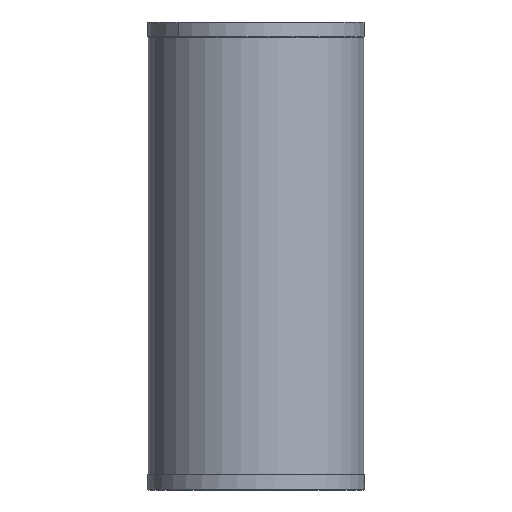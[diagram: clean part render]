
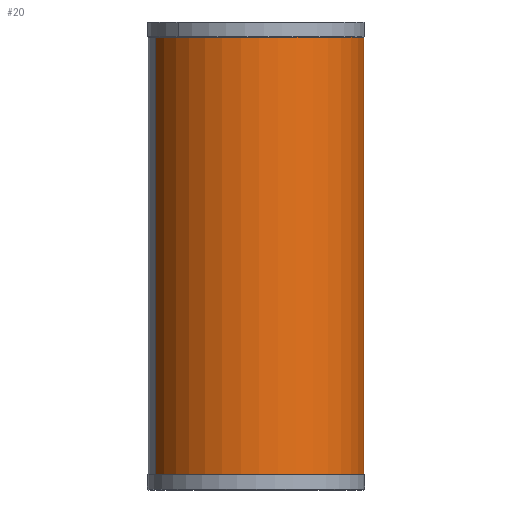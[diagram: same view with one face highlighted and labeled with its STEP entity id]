
A CAD part, front view. The second image highlights one B-rep face of the part: STEP entity #20.
In plain terms, the highlighted cylindrical face has radius 35 mm (diameter 70 mm), a partial arc.
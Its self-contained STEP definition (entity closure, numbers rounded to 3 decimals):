
#8 = LINE ( 'NONE', #1730, #25 ) ;
#20 = ADVANCED_FACE ( 'NONE', ( #1196 ), #784, .T. ) ;
#25 = VECTOR ( 'NONE', #308, 1000. ) ;
#81 = CARTESIAN_POINT ( 'NONE',  ( 0., 0., 142. ) ) ;
#108 = CARTESIAN_POINT ( 'NONE',  ( 0., 0., 142. ) ) ;
#168 = CARTESIAN_POINT ( 'NONE',  ( -35., 0., 142. ) ) ;
#265 = CARTESIAN_POINT ( 'NONE',  ( 35., 0., 142. ) ) ;
#308 = DIRECTION ( 'NONE',  ( 0., 0., -1. ) ) ;
#317 = ORIENTED_EDGE ( 'NONE', *, *, #1130, .T. ) ;
#329 = VERTEX_POINT ( 'NONE', #1108 ) ;
#401 = DIRECTION ( 'NONE',  ( 1., 0., 0. ) ) ;
#430 = EDGE_CURVE ( 'NONE', #1036, #1733, #8, .T. ) ;
#483 = EDGE_LOOP ( 'NONE', ( #1514, #582, #1657, #317 ) ) ;
#582 = ORIENTED_EDGE ( 'NONE', *, *, #724, .F. ) ;
#592 = AXIS2_PLACEMENT_3D ( 'NONE', #960, #1398, #401 ) ;
#649 = AXIS2_PLACEMENT_3D ( 'NONE', #81, #662, #1077 ) ;
#662 = DIRECTION ( 'NONE',  ( 0., 0., -1. ) ) ;
#724 = EDGE_CURVE ( 'NONE', #329, #1036, #1355, .T. ) ;
#784 = CYLINDRICAL_SURFACE ( 'NONE', #649, 35. ) ;
#871 = LINE ( 'NONE', #168, #1555 ) ;
#960 = CARTESIAN_POINT ( 'NONE',  ( 0., 0., 0. ) ) ;
#1017 = VERTEX_POINT ( 'NONE', #1284 ) ;
#1036 = VERTEX_POINT ( 'NONE', #265 ) ;
#1057 = CARTESIAN_POINT ( 'NONE',  ( 35., 0., 0. ) ) ;
#1077 = DIRECTION ( 'NONE',  ( -1., 0., 0. ) ) ;
#1106 = DIRECTION ( 'NONE',  ( 0., 0., 1. ) ) ;
#1108 = CARTESIAN_POINT ( 'NONE',  ( -35., 0., 142. ) ) ;
#1130 = EDGE_CURVE ( 'NONE', #1017, #1733, #1494, .T. ) ;
#1196 = FACE_OUTER_BOUND ( 'NONE', #483, .T. ) ;
#1222 = EDGE_CURVE ( 'NONE', #329, #1017, #871, .T. ) ;
#1284 = CARTESIAN_POINT ( 'NONE',  ( -35., 0., 0. ) ) ;
#1311 = DIRECTION ( 'NONE',  ( 0., 0., -1. ) ) ;
#1355 = CIRCLE ( 'NONE', #1424, 35. ) ;
#1398 = DIRECTION ( 'NONE',  ( 0., 0., 1. ) ) ;
#1424 = AXIS2_PLACEMENT_3D ( 'NONE', #108, #1106, #1534 ) ;
#1494 = CIRCLE ( 'NONE', #592, 35. ) ;
#1514 = ORIENTED_EDGE ( 'NONE', *, *, #430, .F. ) ;
#1534 = DIRECTION ( 'NONE',  ( 1., 0., 0. ) ) ;
#1555 = VECTOR ( 'NONE', #1311, 1000. ) ;
#1657 = ORIENTED_EDGE ( 'NONE', *, *, #1222, .T. ) ;
#1730 = CARTESIAN_POINT ( 'NONE',  ( 35., 0., 142. ) ) ;
#1733 = VERTEX_POINT ( 'NONE', #1057 ) ;
